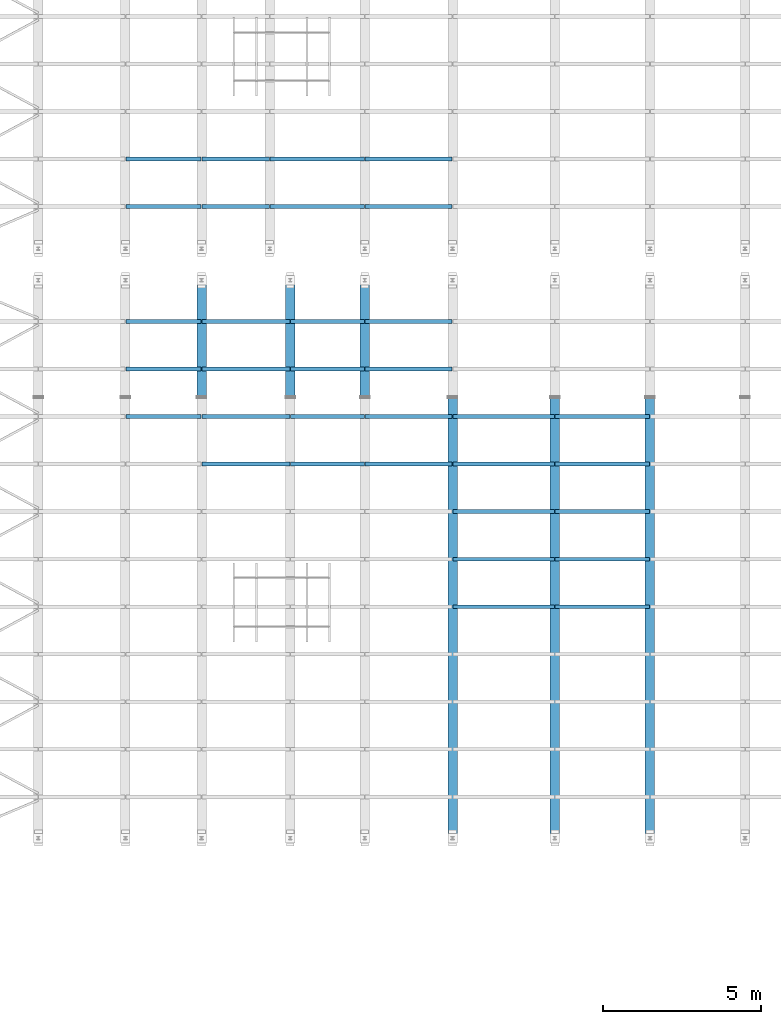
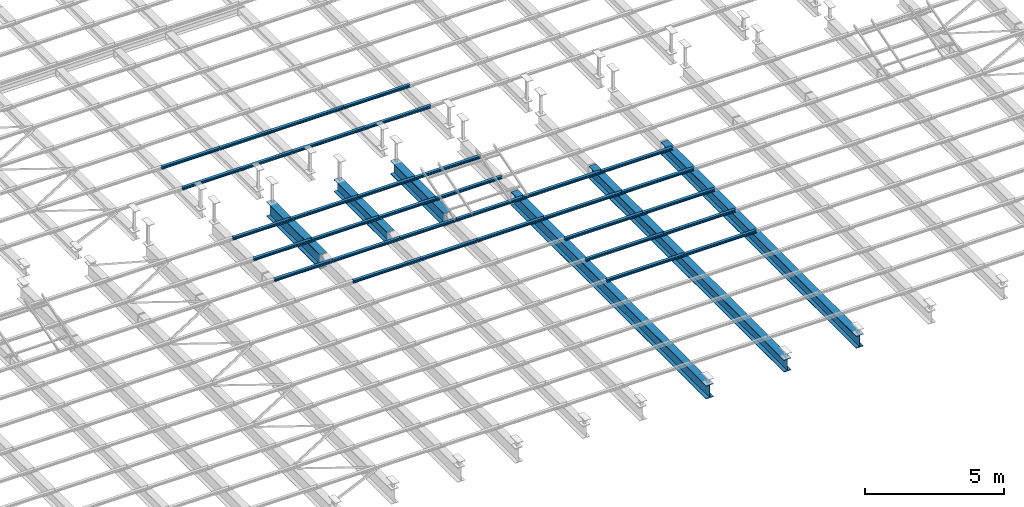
# One storey, part 74 of 139: 39 beams.
"""IFC2X3 building model written with IfcOpenShell, lengths in metres."""

from ifc_helpers import new_model, entity, si_unit, converted_unit, derived_unit, frame, origin, place, context, subcontext, project, spatial, polyline, outline, extrude, material, element, save


model = new_model("IFC2X3")

# Units and contexts
model_context = context("Model", 3, precision=1e-05, world=origin())
body_context = subcontext(model_context, "Body", "Model", "MODEL_VIEW")
ifc_project = project(units=[si_unit("LENGTHUNIT", "METRE"), si_unit("AREAUNIT", "SQUARE_METRE"), si_unit("VOLUMEUNIT", "CUBIC_METRE"), si_unit("MASSUNIT", "GRAM", prefix="KILO"), converted_unit("PLANEANGLEUNIT", "DEGREE", entity("IfcPlaneAngleMeasure", 0.0174532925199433), si_unit("PLANEANGLEUNIT", "RADIAN"), dimensions=[0, 0, 0, 0, 0, 0, 0]), derived_unit("THERMALTRANSMITTANCEUNIT", [(si_unit("POWERUNIT", "WATT"), 1), (si_unit("THERMODYNAMICTEMPERATUREUNIT", "KELVIN"), -1), (si_unit("LENGTHUNIT", "METRE"), -2)]), derived_unit("VOLUMETRICFLOWRATEUNIT", [(si_unit("LENGTHUNIT", "METRE"), 3), (converted_unit("TIMEUNIT", "hour", entity("IfcTimeMeasure", 3600.0), si_unit("TIMEUNIT", "SECOND"), dimensions=[0, 0, 1, 0, 0, 0, 0]), -1), (si_unit("LENGTHUNIT", "METRE"), -1)])], contexts=[model_context])

# Site, building, storey
site_placement = place(None, origin())
site = spatial("IfcSite", under=ifc_project, at=site_placement, Name="TWP_Speiseverteilzentrum SBW VZ II", CompositionType="ELEMENT")
building_placement = place(site_placement, origin())
building = spatial("IfcBuilding", under=site, at=building_placement, Name="Speiseverteilzentrum SBW VZ II", CompositionType="ELEMENT")
storey_placement = place(building_placement, frame((0.0, 0.0, 7.1307)))
storey = spatial("IfcBuildingStorey", under=building, at=storey_placement, Name="Wartung_FFB", CompositionType="ELEMENT", Elevation=7.1307)

# Beams
ifc_material_1 = material(Name="S235")
beam_1_placement = place(storey_placement, frame((91.9000000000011, 70.0522526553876, -0.51), z_axis=(0.0, 0.0, 1.0), x_axis=(-1.0, 0.0, 0.0)))
element("IfcBeam", 1, at=beam_1_placement, inside=storey, material=ifc_material_1, Name="Stahlträger", context=body_context, shape_type="SweptSolid", body=[
    extrude(outline(polyline([(-0.15, 0.32), (-0.15, 0.294), (-0.00675000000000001, 0.294), (-0.00675000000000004, -0.294), (-0.15, -0.294), (-0.15, -0.32), (0.15, -0.32), (0.15, -0.294), (0.00674999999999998, -0.294), (0.00675000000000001, 0.294), (0.15, 0.294), (0.15, 0.32), (-0.15, 0.32)])), frame((0.0, 0.0, 0.0), z_axis=(0.0, 1.0, 0.0), x_axis=(-1.0, 0.0, 0.0)), (0.0, 0.0, 1.0), 3.81699999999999),
])
ifc_material_2 = material(Name="S235")
beam_2_placement = place(storey_placement, frame((94.7000000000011, 70.0522526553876, -0.46), z_axis=(0.0, 0.0, 1.0), x_axis=(-1.0, 0.0, 0.0)))
element("IfcBeam", 2, at=beam_2_placement, inside=storey, material=ifc_material_2, Name="Stahlträger", context=body_context, shape_type="SweptSolid", body=[
    extrude(outline(polyline([(-0.15, 0.27), (-0.15, 0.246), (-0.0062499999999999, 0.246), (-0.00624999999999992, -0.246), (-0.15, -0.246), (-0.15, -0.27), (0.15, -0.27), (0.15, -0.246), (0.00625000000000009, -0.246), (0.00625000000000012, 0.246), (0.15, 0.246), (0.15, 0.27), (-0.15, 0.27)])), frame((0.0, 0.0, 0.0), z_axis=(0.0, 1.0, 0.0), x_axis=(-1.0, 0.0, 0.0)), (0.0, 0.0, 1.0), 3.81699999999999),
])
ifc_material_3 = material(Name="S235")
beam_3_placement = place(storey_placement, frame((97.0500000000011, 70.0522526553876, -0.485), z_axis=(0.0, 0.0, 1.0), x_axis=(-1.0, 0.0, 0.0)))
element("IfcBeam", 3, at=beam_3_placement, inside=storey, material=ifc_material_3, Name="Stahlträger", context=body_context, shape_type="SweptSolid", body=[
    extrude(outline(polyline([(-0.15, 0.295), (-0.15, 0.27), (-0.0065, 0.27), (-0.00650000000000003, -0.27), (-0.15, -0.27), (-0.15, -0.295), (0.15, -0.295), (0.15, -0.27), (0.00649999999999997, -0.27), (0.00650000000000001, 0.27), (0.15, 0.27), (0.15, 0.295), (-0.15, 0.295)])), frame((0.0, 0.0, 0.0), z_axis=(0.0, 1.0, 0.0), x_axis=(-1.0, 0.0, 0.0)), (0.0, 0.0, 1.0), 3.81699999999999),
])
ifc_material_4 = material(Name="S235")
beam_4_placement = place(storey_placement, frame((103.050000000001, 66.1852526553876, -0.46), z_axis=(0.0, 0.0, 1.0), x_axis=(-1.0, 0.0, 0.0)))
element("IfcBeam", 4, at=beam_4_placement, inside=storey, material=ifc_material_4, Name="Stahlträger", context=body_context, shape_type="SweptSolid", body=[
    extrude(outline(polyline([(-0.15, 0.27), (-0.15, 0.246), (-0.0062499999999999, 0.246), (-0.00624999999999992, -0.246), (-0.15, -0.246), (-0.15, -0.27), (0.15, -0.27), (0.15, -0.246), (0.00625000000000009, -0.246), (0.00625000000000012, 0.246), (0.15, 0.246), (0.15, 0.27), (-0.15, 0.27)])), frame((0.0, 0.0, 0.0), z_axis=(0.0, 1.0, 0.0), x_axis=(-1.0, 0.0, 0.0)), (0.0, 0.0, 1.0), 14.0352526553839),
])
ifc_material_5 = material(Name="S235")
beam_5_placement = place(storey_placement, frame((106.050000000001, 66.1852526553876, -0.46), z_axis=(0.0, 0.0, 1.0), x_axis=(-1.0, 0.0, 0.0)))
element("IfcBeam", 5, at=beam_5_placement, inside=storey, material=ifc_material_5, Name="Stahlträger", context=body_context, shape_type="SweptSolid", body=[
    extrude(outline(polyline([(-0.15, 0.27), (-0.15, 0.246), (-0.0062499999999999, 0.246), (-0.00624999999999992, -0.246), (-0.15, -0.246), (-0.15, -0.27), (0.15, -0.27), (0.15, -0.246), (0.00625000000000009, -0.246), (0.00625000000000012, 0.246), (0.15, 0.246), (0.15, 0.27), (-0.15, 0.27)])), frame((0.0, 0.0, 0.0), z_axis=(0.0, 1.0, 0.0), x_axis=(-1.0, 0.0, 0.0)), (0.0, 0.0, 1.0), 14.0352526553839),
])
ifc_material_6 = material(Name="S235")
beam_6_placement = place(storey_placement, frame((99.8200000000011, 66.1852526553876, -0.485), z_axis=(0.0, 0.0, 1.0), x_axis=(-1.0, 0.0, 0.0)))
element("IfcBeam", 6, at=beam_6_placement, inside=storey, material=ifc_material_6, Name="Stahlträger", context=body_context, shape_type="SweptSolid", body=[
    extrude(outline(polyline([(-0.15, 0.295), (-0.15, 0.27), (-0.0065, 0.27), (-0.00650000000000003, -0.27), (-0.15, -0.27), (-0.15, -0.295), (0.15, -0.295), (0.15, -0.27), (0.00649999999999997, -0.27), (0.00650000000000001, 0.27), (0.15, 0.27), (0.15, 0.295), (-0.15, 0.295)])), frame((0.0, 0.0, 0.0), z_axis=(0.0, 1.0, 0.0), x_axis=(-1.0, 0.0, 0.0)), (0.0, 0.0, 1.0), 14.0352526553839),
])
ifc_material_7 = material(Name="S235")
beam_7_placement = place(storey_placement, frame((94.0600000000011, 73.7261263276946, -0.133), z_axis=(0.0, 0.0, 1.0), x_axis=(0.0, -1.0, 0.0)))
element("IfcBeam", 7, at=beam_7_placement, inside=storey, material=ifc_material_7, Name="Nebenträger", context=body_context, shape_type="SweptSolid", body=[
    extrude(outline(polyline([(-0.06, 0.0570000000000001), (-0.06, 0.0490000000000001), (-0.00249999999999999, 0.0490000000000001), (-0.0025, -0.0489999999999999), (-0.06, -0.0489999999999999), (-0.06, -0.0569999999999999), (0.06, -0.0569999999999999), (0.06, -0.0489999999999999), (0.0025, -0.0489999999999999), (0.00250000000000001, 0.0490000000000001), (0.06, 0.0490000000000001), (0.06, 0.0570000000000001), (-0.06, 0.0570000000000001)])), frame((0.0, 0.0, 0.0), z_axis=(0.0, 1.0, 0.0), x_axis=(-1.0, 0.0, 0.0)), (0.0, 0.0, 1.0), 2.98),
])
ifc_material_8 = material(Name="S235")
beam_8_placement = place(storey_placement, frame((94.0600000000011, 72.2261263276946, -0.133), z_axis=(0.0, 0.0, 1.0), x_axis=(0.0, -1.0, 0.0)))
element("IfcBeam", 8, at=beam_8_placement, inside=storey, material=ifc_material_8, Name="Nebenträger", context=body_context, shape_type="SweptSolid", body=[
    extrude(outline(polyline([(-0.06, 0.0570000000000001), (-0.06, 0.0490000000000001), (-0.00249999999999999, 0.0490000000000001), (-0.0025, -0.0489999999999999), (-0.06, -0.0489999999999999), (-0.06, -0.0569999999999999), (0.06, -0.0569999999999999), (0.06, -0.0489999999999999), (0.0025, -0.0489999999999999), (0.00250000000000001, 0.0490000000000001), (0.06, 0.0490000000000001), (0.06, 0.0570000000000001), (-0.06, 0.0570000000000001)])), frame((0.0, 0.0, 0.0), z_axis=(0.0, 1.0, 0.0), x_axis=(-1.0, 0.0, 0.0)), (0.0, 0.0, 1.0), 2.98),
])
ifc_material_9 = material(Name="S235")
beam_9_placement = place(storey_placement, frame((103.060000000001, 65.6011263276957, -0.133), z_axis=(0.0, 0.0, 1.0), x_axis=(0.0, -1.0, 0.0)))
element("IfcBeam", 9, at=beam_9_placement, inside=storey, material=ifc_material_9, Name="Nebenträger", context=body_context, shape_type="SweptSolid", body=[
    extrude(outline(polyline([(-0.06, 0.0570000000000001), (-0.06, 0.0490000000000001), (-0.00249999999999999, 0.0490000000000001), (-0.0025, -0.0489999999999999), (-0.06, -0.0489999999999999), (-0.06, -0.0569999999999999), (0.06, -0.0569999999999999), (0.06, -0.0489999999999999), (0.0025, -0.0489999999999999), (0.00250000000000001, 0.0490000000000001), (0.06, 0.0490000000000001), (0.06, 0.0570000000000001), (-0.06, 0.0570000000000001)])), frame((0.0, 0.0, 0.0), z_axis=(0.0, 1.0, 0.0), x_axis=(-1.0, 0.0, 0.0)), (0.0, 0.0, 1.0), 2.98),
])
ifc_material_10 = material(Name="S235")
beam_10_placement = place(storey_placement, frame((103.060000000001, 64.1011263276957, -0.133), z_axis=(0.0, 0.0, 1.0), x_axis=(0.0, -1.0, 0.0)))
element("IfcBeam", 10, at=beam_10_placement, inside=storey, material=ifc_material_10, Name="Nebenträger", context=body_context, shape_type="SweptSolid", body=[
    extrude(outline(polyline([(-0.06, 0.0570000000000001), (-0.06, 0.0490000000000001), (-0.00249999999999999, 0.0490000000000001), (-0.0025, -0.0489999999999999), (-0.06, -0.0489999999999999), (-0.06, -0.0569999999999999), (0.06, -0.0569999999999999), (0.06, -0.0489999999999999), (0.0025, -0.0489999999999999), (0.00250000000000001, 0.0490000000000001), (0.06, 0.0490000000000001), (0.06, 0.0570000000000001), (-0.06, 0.0570000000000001)])), frame((0.0, 0.0, 0.0), z_axis=(0.0, 1.0, 0.0), x_axis=(-1.0, 0.0, 0.0)), (0.0, 0.0, 1.0), 2.98),
])
ifc_material_11 = material(Name="S235")
beam_11_placement = place(storey_placement, frame((103.060000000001, 62.6011263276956, -0.133), z_axis=(0.0, 0.0, 1.0), x_axis=(0.0, -1.0, 0.0)))
element("IfcBeam", 11, at=beam_11_placement, inside=storey, material=ifc_material_11, Name="Nebenträger", context=body_context, shape_type="SweptSolid", body=[
    extrude(outline(polyline([(-0.06, 0.0570000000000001), (-0.06, 0.0490000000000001), (-0.00249999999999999, 0.0490000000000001), (-0.0025, -0.0489999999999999), (-0.06, -0.0489999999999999), (-0.06, -0.0569999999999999), (0.06, -0.0569999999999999), (0.06, -0.0489999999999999), (0.0025, -0.0489999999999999), (0.00250000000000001, 0.0490000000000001), (0.06, 0.0490000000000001), (0.06, 0.0570000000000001), (-0.06, 0.0570000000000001)])), frame((0.0, 0.0, 0.0), z_axis=(0.0, 1.0, 0.0), x_axis=(-1.0, 0.0, 0.0)), (0.0, 0.0, 1.0), 2.98),
])
ifc_material_12 = material(Name="S235")
beam_12_placement = place(storey_placement, frame((103.060000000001, 61.1011263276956, -0.133), z_axis=(0.0, 0.0, 1.0), x_axis=(0.0, -1.0, 0.0)))
element("IfcBeam", 12, at=beam_12_placement, inside=storey, material=ifc_material_12, Name="Nebenträger", context=body_context, shape_type="SweptSolid", body=[
    extrude(outline(polyline([(-0.06, 0.0570000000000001), (-0.06, 0.0490000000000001), (-0.00249999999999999, 0.0490000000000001), (-0.0025, -0.0489999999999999), (-0.06, -0.0489999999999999), (-0.06, -0.0569999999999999), (0.06, -0.0569999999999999), (0.06, -0.0489999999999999), (0.0025, -0.0489999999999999), (0.00250000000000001, 0.0490000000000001), (0.06, 0.0490000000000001), (0.06, 0.0570000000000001), (-0.06, 0.0570000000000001)])), frame((0.0, 0.0, 0.0), z_axis=(0.0, 1.0, 0.0), x_axis=(-1.0, 0.0, 0.0)), (0.0, 0.0, 1.0), 2.98),
])
ifc_material_13 = material(Name="S235")
beam_13_placement = place(storey_placement, frame((103.060000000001, 59.6011263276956, -0.133), z_axis=(0.0, 0.0, 1.0), x_axis=(0.0, -1.0, 0.0)))
element("IfcBeam", 13, at=beam_13_placement, inside=storey, material=ifc_material_13, Name="Nebenträger", context=body_context, shape_type="SweptSolid", body=[
    extrude(outline(polyline([(-0.06, 0.0570000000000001), (-0.06, 0.0490000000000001), (-0.00249999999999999, 0.0490000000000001), (-0.0025, -0.0489999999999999), (-0.06, -0.0489999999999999), (-0.06, -0.0569999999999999), (0.06, -0.0569999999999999), (0.06, -0.0489999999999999), (0.0025, -0.0489999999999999), (0.00250000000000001, 0.0490000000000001), (0.06, 0.0490000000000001), (0.06, 0.0570000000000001), (-0.06, 0.0570000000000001)])), frame((0.0, 0.0, 0.0), z_axis=(0.0, 1.0, 0.0), x_axis=(-1.0, 0.0, 0.0)), (0.0, 0.0, 1.0), 2.98),
])
ifc_material_14 = material(Name="S235")
beam_14_placement = place(storey_placement, frame((89.5100000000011, 68.6011263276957, -0.133), z_axis=(0.0, 0.0, 1.0), x_axis=(0.0, -1.0, 0.0)))
element("IfcBeam", 14, at=beam_14_placement, inside=storey, material=ifc_material_14, Name="Nebenträger", context=body_context, shape_type="SweptSolid", body=[
    extrude(outline(polyline([(-0.06, 0.0570000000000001), (-0.06, 0.0490000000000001), (-0.00249999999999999, 0.0490000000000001), (-0.0025, -0.0489999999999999), (-0.06, -0.0489999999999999), (-0.06, -0.0569999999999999), (0.06, -0.0569999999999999), (0.06, -0.0489999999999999), (0.0025, -0.0489999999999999), (0.00250000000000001, 0.0490000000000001), (0.06, 0.0490000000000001), (0.06, 0.0570000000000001), (-0.06, 0.0570000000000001)])), frame((0.0, 0.0, 0.0), z_axis=(0.0, 1.0, 0.0), x_axis=(-1.0, 0.0, 0.0)), (0.0, 0.0, 1.0), 2.38),
])
ifc_material_15 = material(Name="S235")
beam_15_placement = place(storey_placement, frame((89.5100000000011, 67.1011263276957, -0.133), z_axis=(0.0, 0.0, 1.0), x_axis=(0.0, -1.0, 0.0)))
element("IfcBeam", 15, at=beam_15_placement, inside=storey, material=ifc_material_15, Name="Nebenträger", context=body_context, shape_type="SweptSolid", body=[
    extrude(outline(polyline([(-0.06, 0.0570000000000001), (-0.06, 0.0490000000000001), (-0.00249999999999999, 0.0490000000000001), (-0.0025, -0.0489999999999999), (-0.06, -0.0489999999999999), (-0.06, -0.0569999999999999), (0.06, -0.0569999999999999), (0.06, -0.0489999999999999), (0.0025, -0.0489999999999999), (0.00250000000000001, 0.0490000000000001), (0.06, 0.0490000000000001), (0.06, 0.0570000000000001), (-0.06, 0.0570000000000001)])), frame((0.0, 0.0, 0.0), z_axis=(0.0, 1.0, 0.0), x_axis=(-1.0, 0.0, 0.0)), (0.0, 0.0, 1.0), 2.38),
])
ifc_material_16 = material(Name="S235")
beam_16_placement = place(storey_placement, frame((89.5100000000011, 65.6011263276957, -0.133), z_axis=(0.0, 0.0, 1.0), x_axis=(0.0, -1.0, 0.0)))
element("IfcBeam", 16, at=beam_16_placement, inside=storey, material=ifc_material_16, Name="Nebenträger", context=body_context, shape_type="SweptSolid", body=[
    extrude(outline(polyline([(-0.06, 0.0570000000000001), (-0.06, 0.0490000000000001), (-0.00249999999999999, 0.0490000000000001), (-0.0025, -0.0489999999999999), (-0.06, -0.0489999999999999), (-0.06, -0.0569999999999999), (0.06, -0.0569999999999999), (0.06, -0.0489999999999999), (0.0025, -0.0489999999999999), (0.00250000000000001, 0.0490000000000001), (0.06, 0.0490000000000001), (0.06, 0.0570000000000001), (-0.06, 0.0570000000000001)])), frame((0.0, 0.0, 0.0), z_axis=(0.0, 1.0, 0.0), x_axis=(-1.0, 0.0, 0.0)), (0.0, 0.0, 1.0), 2.38),
])
ifc_material_17 = material(Name="S235")
beam_17_placement = place(storey_placement, frame((94.7100000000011, 68.6011263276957, -0.133), z_axis=(0.0, 0.0, 1.0), x_axis=(0.0, -1.0, 0.0)))
element("IfcBeam", 17, at=beam_17_placement, inside=storey, material=ifc_material_17, Name="Nebenträger", context=body_context, shape_type="SweptSolid", body=[
    extrude(outline(polyline([(-0.06, 0.0570000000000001), (-0.06, 0.0490000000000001), (-0.00249999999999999, 0.0490000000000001), (-0.0025, -0.0489999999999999), (-0.06, -0.0489999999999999), (-0.06, -0.0569999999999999), (0.06, -0.0569999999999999), (0.06, -0.0489999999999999), (0.0025, -0.0489999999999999), (0.00250000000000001, 0.0490000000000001), (0.06, 0.0490000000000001), (0.06, 0.0570000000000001), (-0.06, 0.0570000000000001)])), frame((0.0, 0.0, 0.0), z_axis=(0.0, 1.0, 0.0), x_axis=(-1.0, 0.0, 0.0)), (0.0, 0.0, 1.0), 2.33),
])
ifc_material_18 = material(Name="S235")
beam_18_placement = place(storey_placement, frame((94.7100000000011, 67.1011263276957, -0.133), z_axis=(0.0, 0.0, 1.0), x_axis=(0.0, -1.0, 0.0)))
element("IfcBeam", 18, at=beam_18_placement, inside=storey, material=ifc_material_18, Name="Nebenträger", context=body_context, shape_type="SweptSolid", body=[
    extrude(outline(polyline([(-0.06, 0.0570000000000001), (-0.06, 0.0490000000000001), (-0.00249999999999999, 0.0490000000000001), (-0.0025, -0.0489999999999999), (-0.06, -0.0489999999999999), (-0.06, -0.0569999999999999), (0.06, -0.0569999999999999), (0.06, -0.0489999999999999), (0.0025, -0.0489999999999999), (0.00250000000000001, 0.0490000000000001), (0.06, 0.0490000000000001), (0.06, 0.0570000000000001), (-0.06, 0.0570000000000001)])), frame((0.0, 0.0, 0.0), z_axis=(0.0, 1.0, 0.0), x_axis=(-1.0, 0.0, 0.0)), (0.0, 0.0, 1.0), 2.33),
])
ifc_material_19 = material(Name="S235")
beam_19_placement = place(storey_placement, frame((94.7100000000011, 65.6011263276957, -0.133), z_axis=(0.0, 0.0, 1.0), x_axis=(0.0, -1.0, 0.0)))
element("IfcBeam", 19, at=beam_19_placement, inside=storey, material=ifc_material_19, Name="Nebenträger", context=body_context, shape_type="SweptSolid", body=[
    extrude(outline(polyline([(-0.06, 0.0570000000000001), (-0.06, 0.0490000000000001), (-0.00249999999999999, 0.0490000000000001), (-0.0025, -0.0489999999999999), (-0.06, -0.0489999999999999), (-0.06, -0.0569999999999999), (0.06, -0.0569999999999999), (0.06, -0.0489999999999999), (0.0025, -0.0489999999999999), (0.00250000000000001, 0.0490000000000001), (0.06, 0.0490000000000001), (0.06, 0.0570000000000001), (-0.06, 0.0570000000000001)])), frame((0.0, 0.0, 0.0), z_axis=(0.0, 1.0, 0.0), x_axis=(-1.0, 0.0, 0.0)), (0.0, 0.0, 1.0), 2.33),
])
ifc_material_20 = material(Name="S235")
beam_20_placement = place(storey_placement, frame((94.7100000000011, 64.1011263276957, -0.133), z_axis=(0.0, 0.0, 1.0), x_axis=(0.0, -1.0, 0.0)))
element("IfcBeam", 20, at=beam_20_placement, inside=storey, material=ifc_material_20, Name="Nebenträger", context=body_context, shape_type="SweptSolid", body=[
    extrude(outline(polyline([(-0.06, 0.0570000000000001), (-0.06, 0.0490000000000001), (-0.00249999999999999, 0.0490000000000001), (-0.0025, -0.0489999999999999), (-0.06, -0.0489999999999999), (-0.06, -0.0569999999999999), (0.06, -0.0569999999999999), (0.06, -0.0489999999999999), (0.0025, -0.0489999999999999), (0.00250000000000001, 0.0490000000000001), (0.06, 0.0490000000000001), (0.06, 0.0570000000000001), (-0.06, 0.0570000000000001)])), frame((0.0, 0.0, 0.0), z_axis=(0.0, 1.0, 0.0), x_axis=(-1.0, 0.0, 0.0)), (0.0, 0.0, 1.0), 2.33),
])
ifc_material_21 = material(Name="S235")
beam_21_placement = place(storey_placement, frame((91.9100000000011, 68.6011263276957, -0.133), z_axis=(0.0, 0.0, 1.0), x_axis=(0.0, -1.0, 0.0)))
element("IfcBeam", 21, at=beam_21_placement, inside=storey, material=ifc_material_21, Name="Nebenträger", context=body_context, shape_type="SweptSolid", body=[
    extrude(outline(polyline([(-0.06, 0.0570000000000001), (-0.06, 0.0490000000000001), (-0.00249999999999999, 0.0490000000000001), (-0.0025, -0.0489999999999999), (-0.06, -0.0489999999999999), (-0.06, -0.0569999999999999), (0.06, -0.0569999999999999), (0.06, -0.0489999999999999), (0.0025, -0.0489999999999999), (0.00250000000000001, 0.0490000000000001), (0.06, 0.0490000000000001), (0.06, 0.0570000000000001), (-0.06, 0.0570000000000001)])), frame((0.0, 0.0, 0.0), z_axis=(0.0, 1.0, 0.0), x_axis=(-1.0, 0.0, 0.0)), (0.0, 0.0, 1.0), 2.78),
])
ifc_material_22 = material(Name="S235")
beam_22_placement = place(storey_placement, frame((91.9100000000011, 67.1011263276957, -0.133), z_axis=(0.0, 0.0, 1.0), x_axis=(0.0, -1.0, 0.0)))
element("IfcBeam", 22, at=beam_22_placement, inside=storey, material=ifc_material_22, Name="Nebenträger", context=body_context, shape_type="SweptSolid", body=[
    extrude(outline(polyline([(-0.06, 0.0570000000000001), (-0.06, 0.0490000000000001), (-0.00249999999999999, 0.0490000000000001), (-0.0025, -0.0489999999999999), (-0.06, -0.0489999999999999), (-0.06, -0.0569999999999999), (0.06, -0.0569999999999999), (0.06, -0.0489999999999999), (0.0025, -0.0489999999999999), (0.00250000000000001, 0.0490000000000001), (0.06, 0.0490000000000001), (0.06, 0.0570000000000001), (-0.06, 0.0570000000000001)])), frame((0.0, 0.0, 0.0), z_axis=(0.0, 1.0, 0.0), x_axis=(-1.0, 0.0, 0.0)), (0.0, 0.0, 1.0), 2.78),
])
ifc_material_23 = material(Name="S235")
beam_23_placement = place(storey_placement, frame((91.9100000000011, 65.6011263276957, -0.133), z_axis=(0.0, 0.0, 1.0), x_axis=(0.0, -1.0, 0.0)))
element("IfcBeam", 23, at=beam_23_placement, inside=storey, material=ifc_material_23, Name="Nebenträger", context=body_context, shape_type="SweptSolid", body=[
    extrude(outline(polyline([(-0.06, 0.0570000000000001), (-0.06, 0.0490000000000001), (-0.00249999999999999, 0.0490000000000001), (-0.0025, -0.0489999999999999), (-0.06, -0.0489999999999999), (-0.06, -0.0569999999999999), (0.06, -0.0569999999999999), (0.06, -0.0489999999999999), (0.0025, -0.0489999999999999), (0.00250000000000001, 0.0490000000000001), (0.06, 0.0490000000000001), (0.06, 0.0570000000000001), (-0.06, 0.0570000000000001)])), frame((0.0, 0.0, 0.0), z_axis=(0.0, 1.0, 0.0), x_axis=(-1.0, 0.0, 0.0)), (0.0, 0.0, 1.0), 2.78),
])
ifc_material_24 = material(Name="S235")
beam_24_placement = place(storey_placement, frame((91.9100000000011, 64.1011263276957, -0.133), z_axis=(0.0, 0.0, 1.0), x_axis=(0.0, -1.0, 0.0)))
element("IfcBeam", 24, at=beam_24_placement, inside=storey, material=ifc_material_24, Name="Nebenträger", context=body_context, shape_type="SweptSolid", body=[
    extrude(outline(polyline([(-0.06, 0.0570000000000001), (-0.06, 0.0490000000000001), (-0.00249999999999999, 0.0490000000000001), (-0.0025, -0.0489999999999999), (-0.06, -0.0489999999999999), (-0.06, -0.0569999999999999), (0.06, -0.0569999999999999), (0.06, -0.0489999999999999), (0.0025, -0.0489999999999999), (0.00250000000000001, 0.0490000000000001), (0.06, 0.0490000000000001), (0.06, 0.0570000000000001), (-0.06, 0.0570000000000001)])), frame((0.0, 0.0, 0.0), z_axis=(0.0, 1.0, 0.0), x_axis=(-1.0, 0.0, 0.0)), (0.0, 0.0, 1.0), 2.78),
])
ifc_material_25 = material(Name="S235")
beam_25_placement = place(storey_placement, frame((91.9100000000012, 73.7261263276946, -0.133), z_axis=(0.0, 0.0, 1.0), x_axis=(0.0, -1.0, 0.0)))
element("IfcBeam", 25, at=beam_25_placement, inside=storey, material=ifc_material_25, Name="Nebenträger", context=body_context, shape_type="SweptSolid", body=[
    extrude(outline(polyline([(-0.06, 0.0570000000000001), (-0.06, 0.0490000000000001), (-0.00249999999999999, 0.0490000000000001), (-0.0025, -0.0489999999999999), (-0.06, -0.0489999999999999), (-0.06, -0.0569999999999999), (0.06, -0.0569999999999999), (0.06, -0.0489999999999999), (0.0025, -0.0489999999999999), (0.00250000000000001, 0.0490000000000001), (0.06, 0.0490000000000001), (0.06, 0.0570000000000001), (-0.06, 0.0570000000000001)])), frame((0.0, 0.0, 0.0), z_axis=(0.0, 1.0, 0.0), x_axis=(-1.0, 0.0, 0.0)), (0.0, 0.0, 1.0), 2.12999999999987),
])
ifc_material_26 = material(Name="S235")
beam_26_placement = place(storey_placement, frame((91.9100000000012, 72.2261263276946, -0.133), z_axis=(0.0, 0.0, 1.0), x_axis=(0.0, -1.0, 0.0)))
element("IfcBeam", 26, at=beam_26_placement, inside=storey, material=ifc_material_26, Name="Nebenträger", context=body_context, shape_type="SweptSolid", body=[
    extrude(outline(polyline([(-0.06, 0.0570000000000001), (-0.06, 0.0490000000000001), (-0.00249999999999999, 0.0490000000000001), (-0.0025, -0.0489999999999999), (-0.06, -0.0489999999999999), (-0.06, -0.0569999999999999), (0.06, -0.0569999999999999), (0.06, -0.0489999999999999), (0.0025, -0.0489999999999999), (0.00250000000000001, 0.0490000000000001), (0.06, 0.0490000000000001), (0.06, 0.0570000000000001), (-0.06, 0.0570000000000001)])), frame((0.0, 0.0, 0.0), z_axis=(0.0, 1.0, 0.0), x_axis=(-1.0, 0.0, 0.0)), (0.0, 0.0, 1.0), 2.12999999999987),
])
ifc_material_27 = material(Name="S235")
beam_27_placement = place(storey_placement, frame((89.5100000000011, 73.7261263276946, -0.133), z_axis=(0.0, 0.0, 1.0), x_axis=(0.0, -1.0, 0.0)))
element("IfcBeam", 27, at=beam_27_placement, inside=storey, material=ifc_material_27, Name="Nebenträger", context=body_context, shape_type="SweptSolid", body=[
    extrude(outline(polyline([(-0.06, 0.0570000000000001), (-0.06, 0.0490000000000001), (-0.00249999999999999, 0.0490000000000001), (-0.0025, -0.0489999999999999), (-0.06, -0.0489999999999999), (-0.06, -0.0569999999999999), (0.06, -0.0569999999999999), (0.06, -0.0489999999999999), (0.0025, -0.0489999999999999), (0.00250000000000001, 0.0490000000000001), (0.06, 0.0490000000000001), (0.06, 0.0570000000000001), (-0.06, 0.0570000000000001)])), frame((0.0, 0.0, 0.0), z_axis=(0.0, 1.0, 0.0), x_axis=(-1.0, 0.0, 0.0)), (0.0, 0.0, 1.0), 2.38000000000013),
])
ifc_material_28 = material(Name="S235")
beam_28_placement = place(storey_placement, frame((89.5100000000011, 72.2261263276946, -0.133), z_axis=(0.0, 0.0, 1.0), x_axis=(0.0, -1.0, 0.0)))
element("IfcBeam", 28, at=beam_28_placement, inside=storey, material=ifc_material_28, Name="Nebenträger", context=body_context, shape_type="SweptSolid", body=[
    extrude(outline(polyline([(-0.06, 0.0570000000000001), (-0.06, 0.0490000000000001), (-0.00249999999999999, 0.0490000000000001), (-0.0025, -0.0489999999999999), (-0.06, -0.0489999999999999), (-0.06, -0.0569999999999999), (0.06, -0.0569999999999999), (0.06, -0.0489999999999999), (0.0025, -0.0489999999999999), (0.00250000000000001, 0.0490000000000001), (0.06, 0.0490000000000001), (0.06, 0.0570000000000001), (-0.06, 0.0570000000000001)])), frame((0.0, 0.0, 0.0), z_axis=(0.0, 1.0, 0.0), x_axis=(-1.0, 0.0, 0.0)), (0.0, 0.0, 1.0), 2.38000000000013),
])
ifc_material_29 = material(Name="S235")
beam_29_placement = place(storey_placement, frame((97.0600000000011, 73.7261263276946, -0.133), z_axis=(0.0, 0.0, 1.0), x_axis=(0.0, -1.0, 0.0)))
element("IfcBeam", 29, at=beam_29_placement, inside=storey, material=ifc_material_29, Name="Nebenträger", context=body_context, shape_type="SweptSolid", body=[
    extrude(outline(polyline([(-0.06, 0.0570000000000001), (-0.06, 0.0490000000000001), (-0.00249999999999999, 0.0490000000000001), (-0.0025, -0.0489999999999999), (-0.06, -0.0489999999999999), (-0.06, -0.0569999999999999), (0.06, -0.0569999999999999), (0.06, -0.0489999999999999), (0.0025, -0.0489999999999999), (0.00250000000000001, 0.0490000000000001), (0.06, 0.0490000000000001), (0.06, 0.0570000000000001), (-0.06, 0.0570000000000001)])), frame((0.0, 0.0, 0.0), z_axis=(0.0, 1.0, 0.0), x_axis=(-1.0, 0.0, 0.0)), (0.0, 0.0, 1.0), 2.75),
])
ifc_material_30 = material(Name="S235")
beam_30_placement = place(storey_placement, frame((97.0600000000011, 72.2261263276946, -0.133), z_axis=(0.0, 0.0, 1.0), x_axis=(0.0, -1.0, 0.0)))
element("IfcBeam", 30, at=beam_30_placement, inside=storey, material=ifc_material_30, Name="Nebenträger", context=body_context, shape_type="SweptSolid", body=[
    extrude(outline(polyline([(-0.06, 0.0570000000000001), (-0.06, 0.0490000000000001), (-0.00249999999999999, 0.0490000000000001), (-0.0025, -0.0489999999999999), (-0.06, -0.0489999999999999), (-0.06, -0.0569999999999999), (0.06, -0.0569999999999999), (0.06, -0.0489999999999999), (0.0025, -0.0489999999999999), (0.00250000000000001, 0.0490000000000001), (0.06, 0.0490000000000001), (0.06, 0.0570000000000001), (-0.06, 0.0570000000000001)])), frame((0.0, 0.0, 0.0), z_axis=(0.0, 1.0, 0.0), x_axis=(-1.0, 0.0, 0.0)), (0.0, 0.0, 1.0), 2.75),
])
ifc_material_31 = material(Name="S235")
beam_31_placement = place(storey_placement, frame((97.0600000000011, 68.6011263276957, -0.133), z_axis=(0.0, 0.0, 1.0), x_axis=(0.0, -1.0, 0.0)))
element("IfcBeam", 31, at=beam_31_placement, inside=storey, material=ifc_material_31, Name="Nebenträger", context=body_context, shape_type="SweptSolid", body=[
    extrude(outline(polyline([(-0.06, 0.0570000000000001), (-0.06, 0.0490000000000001), (-0.00249999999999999, 0.0490000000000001), (-0.0025, -0.0489999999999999), (-0.06, -0.0489999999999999), (-0.06, -0.0569999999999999), (0.06, -0.0569999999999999), (0.06, -0.0489999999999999), (0.0025, -0.0489999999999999), (0.00250000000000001, 0.0490000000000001), (0.06, 0.0490000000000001), (0.06, 0.0570000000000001), (-0.06, 0.0570000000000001)])), frame((0.0, 0.0, 0.0), z_axis=(0.0, 1.0, 0.0), x_axis=(-1.0, 0.0, 0.0)), (0.0, 0.0, 1.0), 2.75),
])
ifc_material_32 = material(Name="S235")
beam_32_placement = place(storey_placement, frame((97.0600000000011, 67.1011263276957, -0.133), z_axis=(0.0, 0.0, 1.0), x_axis=(0.0, -1.0, 0.0)))
element("IfcBeam", 32, at=beam_32_placement, inside=storey, material=ifc_material_32, Name="Nebenträger", context=body_context, shape_type="SweptSolid", body=[
    extrude(outline(polyline([(-0.06, 0.0570000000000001), (-0.06, 0.0490000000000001), (-0.00249999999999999, 0.0490000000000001), (-0.0025, -0.0489999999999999), (-0.06, -0.0489999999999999), (-0.06, -0.0569999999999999), (0.06, -0.0569999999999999), (0.06, -0.0489999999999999), (0.0025, -0.0489999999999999), (0.00250000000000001, 0.0490000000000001), (0.06, 0.0490000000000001), (0.06, 0.0570000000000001), (-0.06, 0.0570000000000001)])), frame((0.0, 0.0, 0.0), z_axis=(0.0, 1.0, 0.0), x_axis=(-1.0, 0.0, 0.0)), (0.0, 0.0, 1.0), 2.75),
])
ifc_material_33 = material(Name="S235")
beam_33_placement = place(storey_placement, frame((97.0600000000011, 65.6011263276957, -0.133), z_axis=(0.0, 0.0, 1.0), x_axis=(0.0, -1.0, 0.0)))
element("IfcBeam", 33, at=beam_33_placement, inside=storey, material=ifc_material_33, Name="Nebenträger", context=body_context, shape_type="SweptSolid", body=[
    extrude(outline(polyline([(-0.06, 0.0570000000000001), (-0.06, 0.0490000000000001), (-0.00249999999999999, 0.0490000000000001), (-0.0025, -0.0489999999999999), (-0.06, -0.0489999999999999), (-0.06, -0.0569999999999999), (0.06, -0.0569999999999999), (0.06, -0.0489999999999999), (0.0025, -0.0489999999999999), (0.00250000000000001, 0.0490000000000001), (0.06, 0.0490000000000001), (0.06, 0.0570000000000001), (-0.06, 0.0570000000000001)])), frame((0.0, 0.0, 0.0), z_axis=(0.0, 1.0, 0.0), x_axis=(-1.0, 0.0, 0.0)), (0.0, 0.0, 1.0), 2.75),
])
ifc_material_34 = material(Name="S235")
beam_34_placement = place(storey_placement, frame((99.8300000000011, 65.6011263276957, -0.133), z_axis=(0.0, 0.0, 1.0), x_axis=(0.0, -1.0, 0.0)))
element("IfcBeam", 34, at=beam_34_placement, inside=storey, material=ifc_material_34, Name="Nebenträger", context=body_context, shape_type="SweptSolid", body=[
    extrude(outline(polyline([(-0.06, 0.0570000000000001), (-0.06, 0.0490000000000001), (-0.00249999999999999, 0.0490000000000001), (-0.0025, -0.0489999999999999), (-0.06, -0.0489999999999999), (-0.06, -0.0569999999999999), (0.06, -0.0569999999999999), (0.06, -0.0489999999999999), (0.0025, -0.0489999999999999), (0.00250000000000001, 0.0490000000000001), (0.06, 0.0490000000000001), (0.06, 0.0570000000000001), (-0.06, 0.0570000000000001)])), frame((0.0, 0.0, 0.0), z_axis=(0.0, 1.0, 0.0), x_axis=(-1.0, 0.0, 0.0)), (0.0, 0.0, 1.0), 3.21),
])
ifc_material_35 = material(Name="S235")
beam_35_placement = place(storey_placement, frame((97.0600000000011, 64.1011263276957, -0.133), z_axis=(0.0, 0.0, 1.0), x_axis=(0.0, -1.0, 0.0)))
element("IfcBeam", 35, at=beam_35_placement, inside=storey, material=ifc_material_35, Name="Nebenträger", context=body_context, shape_type="SweptSolid", body=[
    extrude(outline(polyline([(-0.06, 0.0570000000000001), (-0.06, 0.0490000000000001), (-0.00249999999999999, 0.0490000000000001), (-0.0025, -0.0489999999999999), (-0.06, -0.0489999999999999), (-0.06, -0.0569999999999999), (0.06, -0.0569999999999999), (0.06, -0.0489999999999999), (0.0025, -0.0489999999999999), (0.00250000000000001, 0.0490000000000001), (0.06, 0.0490000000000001), (0.06, 0.0570000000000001), (-0.06, 0.0570000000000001)])), frame((0.0, 0.0, 0.0), z_axis=(0.0, 1.0, 0.0), x_axis=(-1.0, 0.0, 0.0)), (0.0, 0.0, 1.0), 2.75),
])
ifc_material_36 = material(Name="S235")
beam_36_placement = place(storey_placement, frame((99.8300000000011, 64.1011263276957, -0.133), z_axis=(0.0, 0.0, 1.0), x_axis=(0.0, -1.0, 0.0)))
element("IfcBeam", 36, at=beam_36_placement, inside=storey, material=ifc_material_36, Name="Nebenträger", context=body_context, shape_type="SweptSolid", body=[
    extrude(outline(polyline([(-0.06, 0.0570000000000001), (-0.06, 0.0490000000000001), (-0.00249999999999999, 0.0490000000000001), (-0.0025, -0.0489999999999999), (-0.06, -0.0489999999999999), (-0.06, -0.0569999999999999), (0.06, -0.0569999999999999), (0.06, -0.0489999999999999), (0.0025, -0.0489999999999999), (0.00250000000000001, 0.0490000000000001), (0.06, 0.0490000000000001), (0.06, 0.0570000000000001), (-0.06, 0.0570000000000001)])), frame((0.0, 0.0, 0.0), z_axis=(0.0, 1.0, 0.0), x_axis=(-1.0, 0.0, 0.0)), (0.0, 0.0, 1.0), 3.21),
])
ifc_material_37 = material(Name="S235")
beam_37_placement = place(storey_placement, frame((99.8300000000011, 62.6011263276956, -0.133), z_axis=(0.0, 0.0, 1.0), x_axis=(0.0, -1.0, 0.0)))
element("IfcBeam", 37, at=beam_37_placement, inside=storey, material=ifc_material_37, Name="Nebenträger", context=body_context, shape_type="SweptSolid", body=[
    extrude(outline(polyline([(-0.06, 0.0570000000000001), (-0.06, 0.0490000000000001), (-0.00249999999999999, 0.0490000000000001), (-0.0025, -0.0489999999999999), (-0.06, -0.0489999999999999), (-0.06, -0.0569999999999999), (0.06, -0.0569999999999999), (0.06, -0.0489999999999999), (0.0025, -0.0489999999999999), (0.00250000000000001, 0.0490000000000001), (0.06, 0.0490000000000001), (0.06, 0.0570000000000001), (-0.06, 0.0570000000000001)])), frame((0.0, 0.0, 0.0), z_axis=(0.0, 1.0, 0.0), x_axis=(-1.0, 0.0, 0.0)), (0.0, 0.0, 1.0), 3.21),
])
ifc_material_38 = material(Name="S235")
beam_38_placement = place(storey_placement, frame((99.8300000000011, 61.1011263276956, -0.133), z_axis=(0.0, 0.0, 1.0), x_axis=(0.0, -1.0, 0.0)))
element("IfcBeam", 38, at=beam_38_placement, inside=storey, material=ifc_material_38, Name="Nebenträger", context=body_context, shape_type="SweptSolid", body=[
    extrude(outline(polyline([(-0.06, 0.0570000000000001), (-0.06, 0.0490000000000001), (-0.00249999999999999, 0.0490000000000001), (-0.0025, -0.0489999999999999), (-0.06, -0.0489999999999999), (-0.06, -0.0569999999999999), (0.06, -0.0569999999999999), (0.06, -0.0489999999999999), (0.0025, -0.0489999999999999), (0.00250000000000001, 0.0490000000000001), (0.06, 0.0490000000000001), (0.06, 0.0570000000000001), (-0.06, 0.0570000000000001)])), frame((0.0, 0.0, 0.0), z_axis=(0.0, 1.0, 0.0), x_axis=(-1.0, 0.0, 0.0)), (0.0, 0.0, 1.0), 3.21),
])
ifc_material_39 = material(Name="S235")
beam_39_placement = place(storey_placement, frame((99.8300000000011, 59.6011263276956, -0.133), z_axis=(0.0, 0.0, 1.0), x_axis=(0.0, -1.0, 0.0)))
element("IfcBeam", 39, at=beam_39_placement, inside=storey, material=ifc_material_39, Name="Nebenträger", context=body_context, shape_type="SweptSolid", body=[
    extrude(outline(polyline([(-0.06, 0.0570000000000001), (-0.06, 0.0490000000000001), (-0.00249999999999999, 0.0490000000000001), (-0.0025, -0.0489999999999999), (-0.06, -0.0489999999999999), (-0.06, -0.0569999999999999), (0.06, -0.0569999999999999), (0.06, -0.0489999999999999), (0.0025, -0.0489999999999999), (0.00250000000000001, 0.0490000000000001), (0.06, 0.0490000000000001), (0.06, 0.0570000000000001), (-0.06, 0.0570000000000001)])), frame((0.0, 0.0, 0.0), z_axis=(0.0, 1.0, 0.0), x_axis=(-1.0, 0.0, 0.0)), (0.0, 0.0, 1.0), 3.21),
])

save(model, "model.ifc")
